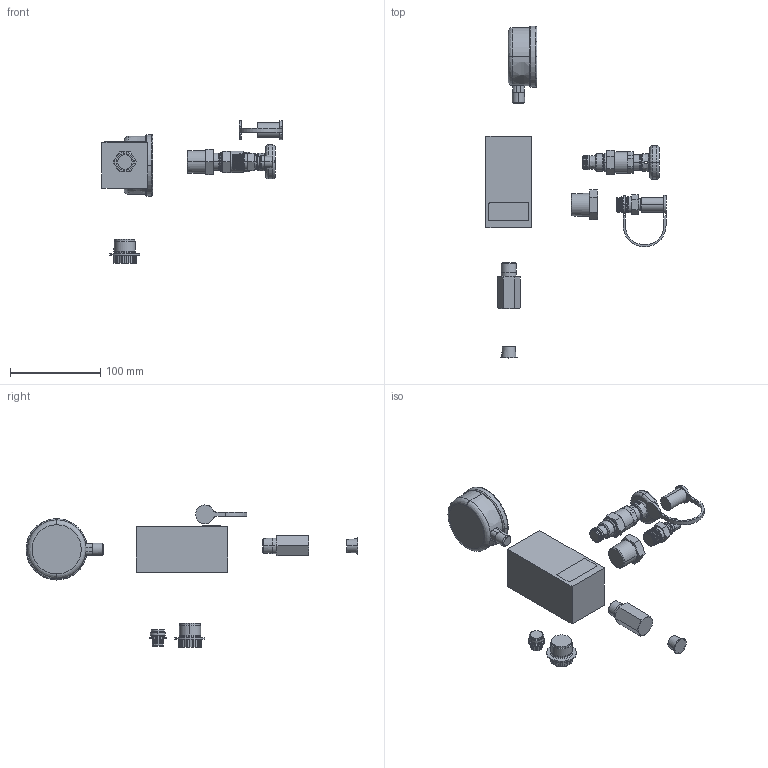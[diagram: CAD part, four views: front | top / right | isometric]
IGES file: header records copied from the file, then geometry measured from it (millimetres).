
Start section:  PTC IGES file: 77x542-en-r.igs
Global section: file name: 77x542-en-r.igs; native system: Creo Parametric by PTC Inc.; preprocessor: 2021072; author: qtmwp1; organization: Unknown; date: 20231218.085056; units: inch
Bounding box: 199.99 x 368.53 x 157.65 mm (x, y, z)
Surface area: 80129.8 mm2 (no closed solid volume)
Topology: 0 solids, 0 shells, 369 faces, 1618 edges, 1618 vertices
Faces by surface type: revolution 221, bspline 148
